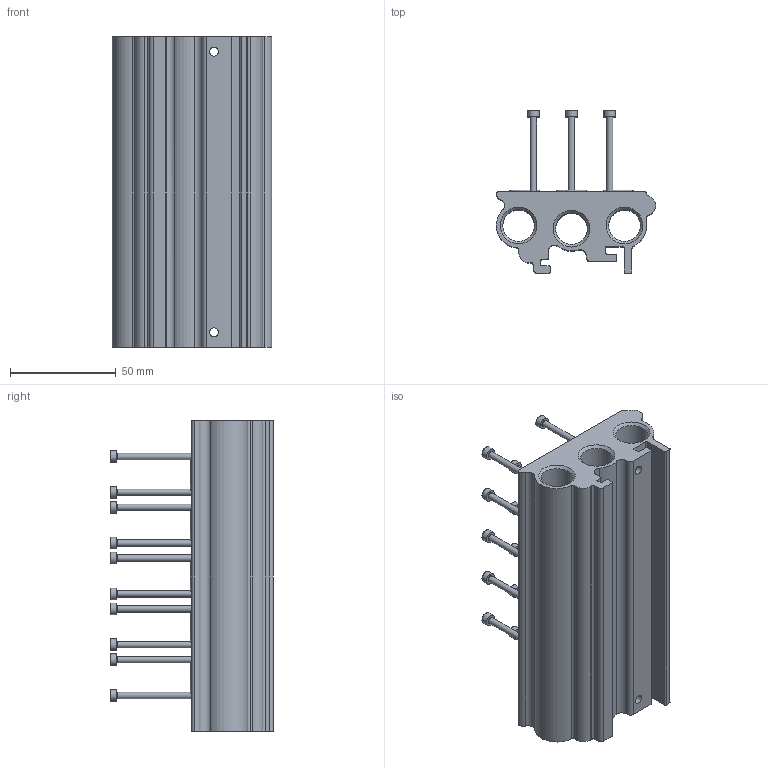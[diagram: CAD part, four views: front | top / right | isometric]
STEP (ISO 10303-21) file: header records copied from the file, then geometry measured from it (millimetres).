
FILE_DESCRIPTION (( 'STEP AP214' ), '1' );
FILE_NAME ('01VB010005A.STEP', '2013-10-04T16:13:49', ( 'ST01' ), ( '' ), 'SwSTEP 2.0', 'SolidWorks 2012', '' );
FILE_SCHEMA (( 'AUTOMOTIVE_DESIGN' ));
Length unit declared in the file: millimetre
Products named in the file (1): 01VB010005A
Bounding box: 75.23 x 76.9 x 146.6 mm (x, y, z)
Surface area: 60944.5 mm2 (no closed solid volume)
Topology: 0 solids, 49 shells, 370 faces, 1037 edges, 654 vertices
Faces by surface type: plane 172, cylinder 84, cone 68, torus 45, bspline 1
Full cylindrical faces by diameter (mm): 3 x15, 4.2 x2, 5.5 x15, 10.5 x2, 11 x15, 14.95 x6
Entity records: 15626 total; most frequent: CARTESIAN_POINT 3014, DIRECTION 1877, ORIENTED_EDGE 1365, EDGE_CURVE 807, AXIS2_PLACEMENT_3D 721, VERTEX_POINT 592, EDGE_LOOP 563, FACE_OUTER_BOUND 440
